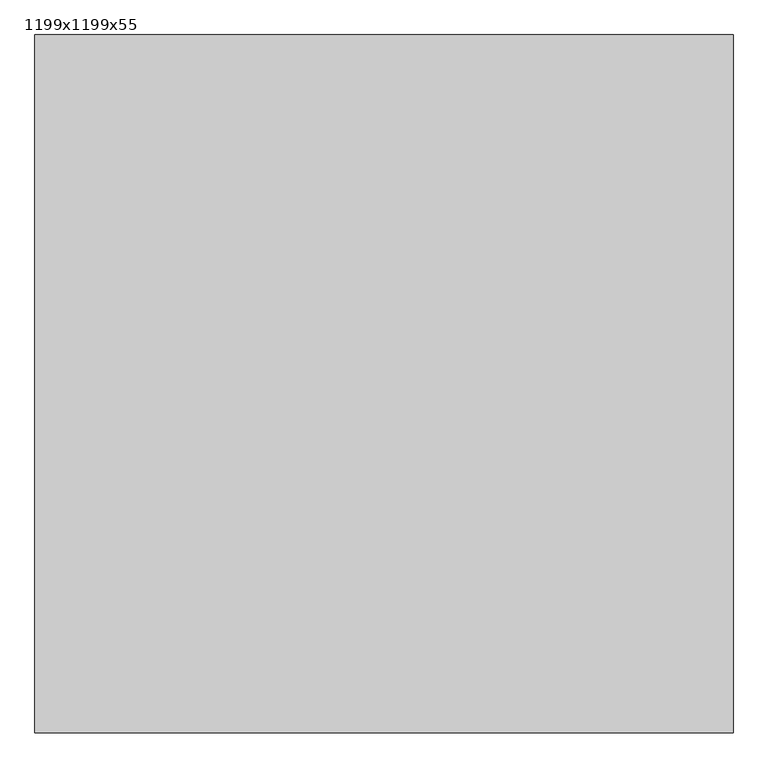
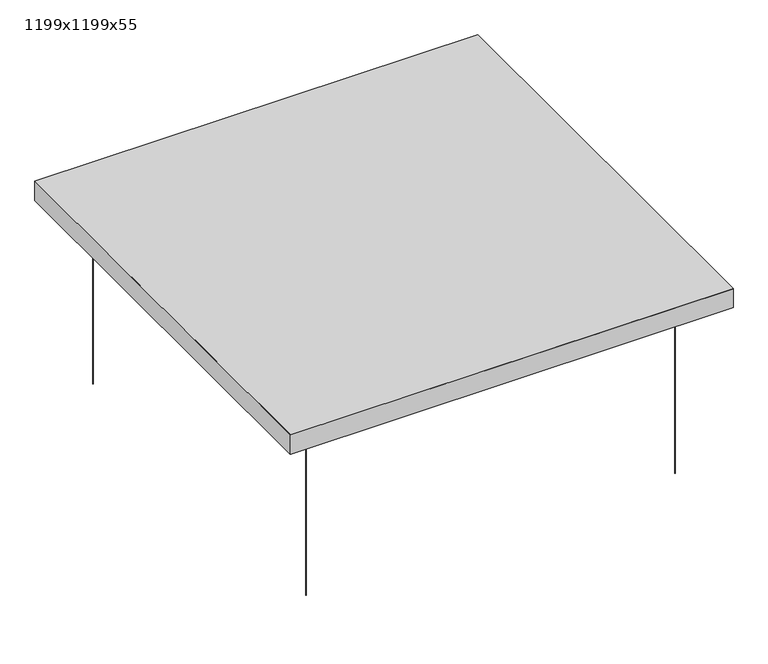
"""IFC4 building model written with IfcOpenShell, lengths in millimetres: proxy geometry, Texaa_Plafond respirant_Strato_Panneaux respirant : 1199x1199x55."""

from ifc_helpers import new_model, si_unit, point, frame_2d, origin, origin_with_axes, place, context, project, spatial, circle_curve, trimmed, segment, composite_curve, outline, extrude, faceted_brep, source, transform, mapped, element, save


def proxy_1199x1199x55_ec76d83f(model_context):
    return source(origin(), model_context, "Body", "SolidModel", [
        faceted_brep([(-598.5, -598.5, 501.0), (598.5, -598.5, 501.0), (598.5, -598.5, 554.0), (-598.5, -598.5, 554.0), (-569.5, -569.5, 539.5411334), (569.5, -569.5, 539.5411334), (569.5, -569.5, 501.0), (-569.5, -569.5, 501.0), (598.5, 598.5, 501.0), (598.5, 598.5, 554.0), (569.5, 569.5, 539.5411334), (569.5, 569.5, 501.0), (-598.5, 598.5, 501.0), (-598.5, 598.5, 554.0), (-569.5, 569.5, 539.5411334), (-569.5, 569.5, 501.0)], [[[0, 1, 2, 3]], [[4, 5, 6, 7]], [[1, 8, 9, 2]], [[5, 10, 11, 6]], [[8, 12, 13, 9]], [[10, 14, 15, 11]], [[12, 0, 3, 13]], [[14, 4, 7, 15]], [[1, 0, 12, 8], [7, 6, 11, 15]], [[3, 2, 5, 4]], [[2, 9, 10, 5]], [[9, 13, 14, 10]], [[13, 3, 4, 14]]]),
        extrude(outline(composite_curve([segment(trimmed(circle_curve(frame_2d((-499.5, -499.5)), 0.75), [point((-500.25, -499.5))], [point((-498.75, -499.5))], False, "CARTESIAN"), True, "CONTINUOUS"), segment(trimmed(circle_curve(frame_2d((-499.5, -499.5)), 0.75), [point((-498.75, -499.5))], [point((-500.25, -499.5))], False, "CARTESIAN"), True, "CONTINUOUS")], self_intersect=False)), origin_with_axes(), (0.0, 0.0, 1.0), 500.0),
        extrude(outline(composite_curve([segment(trimmed(circle_curve(frame_2d((499.5, -499.5)), 0.75), [point((498.75, -499.5))], [point((500.25, -499.5))], False, "CARTESIAN"), True, "CONTINUOUS"), segment(trimmed(circle_curve(frame_2d((499.5, -499.5)), 0.75), [point((500.25, -499.5))], [point((498.75, -499.5))], False, "CARTESIAN"), True, "CONTINUOUS")], self_intersect=False)), origin_with_axes(), (0.0, 0.0, 1.0), 500.0),
        extrude(outline(composite_curve([segment(trimmed(circle_curve(frame_2d((499.5, 499.5)), 0.75), [point((498.75, 499.5))], [point((500.25, 499.5))], False, "CARTESIAN"), True, "CONTINUOUS"), segment(trimmed(circle_curve(frame_2d((499.5, 499.5)), 0.75), [point((500.25, 499.5))], [point((498.75, 499.5))], False, "CARTESIAN"), True, "CONTINUOUS")], self_intersect=False)), origin_with_axes(), (0.0, 0.0, 1.0), 500.0),
        extrude(outline(composite_curve([segment(trimmed(circle_curve(frame_2d((-499.5, 499.5)), 0.75), [point((-500.25, 499.5))], [point((-498.75, 499.5))], False, "CARTESIAN"), True, "CONTINUOUS"), segment(trimmed(circle_curve(frame_2d((-499.5, 499.5)), 0.75), [point((-498.75, 499.5))], [point((-500.25, 499.5))], False, "CARTESIAN"), True, "CONTINUOUS")], self_intersect=False)), origin_with_axes(), (0.0, 0.0, 1.0), 500.0),
        faceted_brep([(-599.5, -599.5, 555.0), (599.5, -599.5, 555.0), (599.5, 599.5, 555.0), (-599.5, 599.5, 555.0), (-599.5, -599.5, 500.0), (-599.5, 599.5, 500.0), (599.5, 599.5, 500.0), (599.5, -599.5, 500.0), (-569.5, 569.5, 500.0), (-569.5, -569.5, 500.0), (569.5, -569.5, 500.0), (569.5, 569.5, 500.0), (569.5, 569.5, 501.0), (-569.5, 569.5, 501.0), (569.5, -569.5, 501.0), (-569.5, -569.5, 501.0), (-598.5, -598.5, 554.0), (-598.5, 598.5, 554.0), (598.5, 598.5, 554.0), (598.5, -598.5, 554.0), (-598.5, -598.5, 501.0), (598.5, -598.5, 501.0), (598.5, 598.5, 501.0), (-598.5, 598.5, 501.0)], [[[0, 1, 2, 3]], [[4, 5, 6, 7], [8, 9, 10, 11]], [[3, 5, 4, 0]], [[2, 6, 5, 3]], [[1, 7, 6, 2]], [[0, 4, 7, 1]], [[8, 11, 12, 13]], [[11, 10, 14, 12]], [[10, 9, 15, 14]], [[13, 15, 9, 8]], [[16, 17, 18, 19]], [[20, 21, 22, 23], [12, 14, 15, 13]], [[16, 20, 23, 17]], [[17, 23, 22, 18]], [[18, 22, 21, 19]], [[19, 21, 20, 16]]]),
    ])


if __name__ == "__main__":
    model = new_model("IFC4")
    model_context = context("Model", 3, world=origin())
    ifc_project = project(units=[si_unit("LENGTHUNIT", "METRE", prefix="MILLI")], contexts=[model_context])
    site = spatial("IfcSite", under=ifc_project)
    building = spatial("IfcBuilding", under=site)
    placement = place(None, origin())
    proxy_1199x1199x55_shape = proxy_1199x1199x55_ec76d83f(model_context)
    element("IfcBuildingElementProxy", 1, Name="Texaa_Plafond respirant_Strato_Panneaux respirant : 1199x1199x55", ObjectType="Texaa_Plafond respirant_Strato_Panneaux respirant : 1199x1199x55", at=placement, inside=building, context=model_context, shape_type="MappedRepresentation", body=[
        mapped(proxy_1199x1199x55_shape, transform((0.0, 0.0, 0.0), x_axis=(1.0, 0.0, 0.0), y_axis=(0.0, 1.0, 0.0), z_axis=(0.0, 0.0, 1.0))),
    ])
    save(model, "model.ifc")
